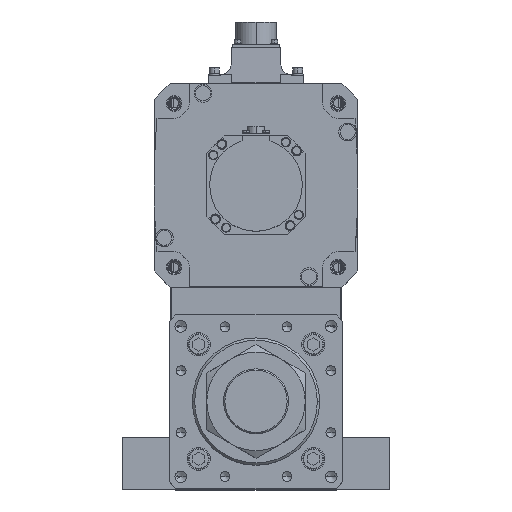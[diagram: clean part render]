
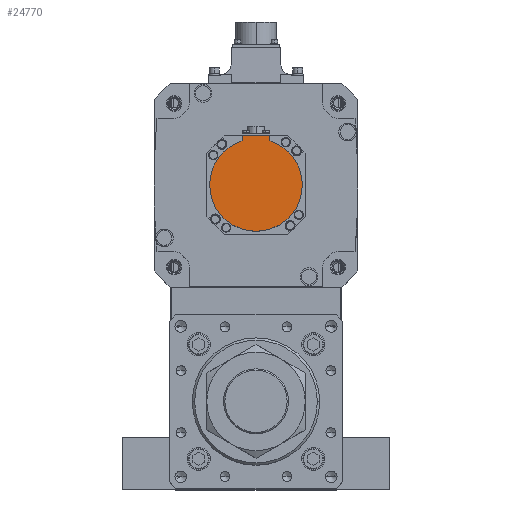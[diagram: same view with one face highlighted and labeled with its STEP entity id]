
A CAD part, top view. The second image highlights one B-rep face of the part: STEP entity #24770.
In plain terms, the highlighted planar face has unit normal (0, 0, 1) as drawn and (0, 0, -1) by its records, which use the part's own axes.
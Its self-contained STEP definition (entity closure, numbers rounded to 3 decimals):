
#2171 = DIRECTION ( 'NONE',  ( 0., 1., 0. ) ) ;
#2763 = EDGE_CURVE ( 'NONE', #20566, #52015, #15553, .T. ) ;
#2924 = DIRECTION ( 'NONE',  ( 1., 0., 0. ) ) ;
#3825 = ORIENTED_EDGE ( 'NONE', *, *, #24736, .F. ) ;
#4351 = VECTOR ( 'NONE', #2171, 1000. ) ;
#4411 = CARTESIAN_POINT ( 'NONE',  ( 0., -1.249, -162.5 ) ) ;
#6096 = EDGE_LOOP ( 'NONE', ( #45636, #35404, #3825, #6989, #15291, #14773 ) ) ;
#6273 = CIRCLE ( 'NONE', #49146, 40. ) ;
#6989 = ORIENTED_EDGE ( 'NONE', *, *, #32887, .F. ) ;
#7099 = CARTESIAN_POINT ( 'NONE',  ( -40., 0., -162.5 ) ) ;
#7216 = CARTESIAN_POINT ( 'NONE',  ( 12., -38.158, -162.5 ) ) ;
#7512 = VECTOR ( 'NONE', #26520, 1000. ) ;
#9077 = CARTESIAN_POINT ( 'NONE',  ( 0., -42.5, -162.5 ) ) ;
#10493 = VERTEX_POINT ( 'NONE', #45962 ) ;
#12569 = DIRECTION ( 'NONE',  ( 0., 0., 1. ) ) ;
#13599 = VERTEX_POINT ( 'NONE', #7099 ) ;
#14773 = ORIENTED_EDGE ( 'NONE', *, *, #2763, .T. ) ;
#15291 = ORIENTED_EDGE ( 'NONE', *, *, #43881, .F. ) ;
#15553 = LINE ( 'NONE', #9077, #36400 ) ;
#17175 = VERTEX_POINT ( 'NONE', #26136 ) ;
#17297 = VERTEX_POINT ( 'NONE', #7216 ) ;
#18512 = CARTESIAN_POINT ( 'NONE',  ( 12., -1.249, -162.5 ) ) ;
#19786 = CIRCLE ( 'NONE', #42961, 40. ) ;
#19943 = FACE_OUTER_BOUND ( 'NONE', #6096, .T. ) ;
#20566 = VERTEX_POINT ( 'NONE', #33167 ) ;
#23000 = CARTESIAN_POINT ( 'NONE',  ( 0., 0., -162.5 ) ) ;
#24081 = CARTESIAN_POINT ( 'NONE',  ( -12., -42.5, -162.5 ) ) ;
#24261 = CARTESIAN_POINT ( 'NONE',  ( 0., 0., -162.5 ) ) ;
#24605 = DIRECTION ( 'NONE',  ( 1., 0., 0. ) ) ;
#24736 = EDGE_CURVE ( 'NONE', #17175, #13599, #6273, .T. ) ;
#24770 = ADVANCED_FACE ( 'NONE', ( #19943 ), #28795, .F. ) ;
#26136 = CARTESIAN_POINT ( 'NONE',  ( 40., 0., -162.5 ) ) ;
#26520 = DIRECTION ( 'NONE',  ( 0., 1., 0. ) ) ;
#28795 = PLANE ( 'NONE',  #43221 ) ;
#31684 = CARTESIAN_POINT ( 'NONE',  ( 0., 0., -162.5 ) ) ;
#32820 = DIRECTION ( 'NONE',  ( 1., 0., 0. ) ) ;
#32887 = EDGE_CURVE ( 'NONE', #17297, #17175, #36842, .T. ) ;
#32971 = AXIS2_PLACEMENT_3D ( 'NONE', #31684, #40265, #2924 ) ;
#33167 = CARTESIAN_POINT ( 'NONE',  ( 12., -42.5, -162.5 ) ) ;
#34212 = DIRECTION ( 'NONE',  ( -1., 0., 0. ) ) ;
#35404 = ORIENTED_EDGE ( 'NONE', *, *, #44434, .F. ) ;
#36400 = VECTOR ( 'NONE', #34212, 1000. ) ;
#36842 = CIRCLE ( 'NONE', #32971, 40. ) ;
#39686 = CARTESIAN_POINT ( 'NONE',  ( -12., -40.329, -162.5 ) ) ;
#40265 = DIRECTION ( 'NONE',  ( 0., 0., 1. ) ) ;
#42961 = AXIS2_PLACEMENT_3D ( 'NONE', #23000, #52212, #47441 ) ;
#43221 = AXIS2_PLACEMENT_3D ( 'NONE', #4411, #12569, #24605 ) ;
#43375 = LINE ( 'NONE', #18512, #7512 ) ;
#43459 = LINE ( 'NONE', #39686, #4351 ) ;
#43881 = EDGE_CURVE ( 'NONE', #20566, #17297, #43375, .T. ) ;
#44434 = EDGE_CURVE ( 'NONE', #13599, #10493, #19786, .T. ) ;
#45636 = ORIENTED_EDGE ( 'NONE', *, *, #51275, .T. ) ;
#45962 = CARTESIAN_POINT ( 'NONE',  ( -12., -38.158, -162.5 ) ) ;
#47441 = DIRECTION ( 'NONE',  ( 1., 0., 0. ) ) ;
#49146 = AXIS2_PLACEMENT_3D ( 'NONE', #24261, #53447, #32820 ) ;
#51275 = EDGE_CURVE ( 'NONE', #52015, #10493, #43459, .T. ) ;
#52015 = VERTEX_POINT ( 'NONE', #24081 ) ;
#52212 = DIRECTION ( 'NONE',  ( 0., 0., 1. ) ) ;
#53447 = DIRECTION ( 'NONE',  ( 0., 0., 1. ) ) ;
